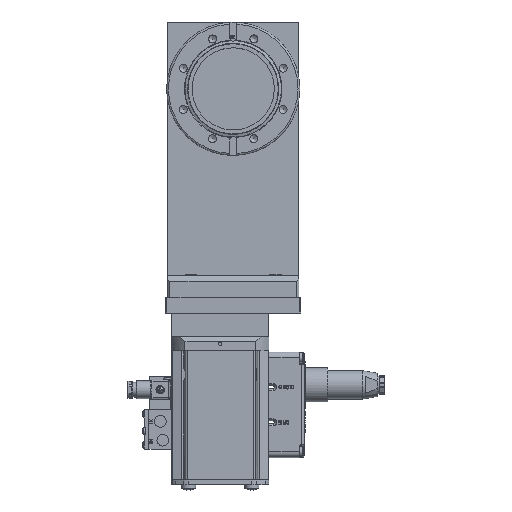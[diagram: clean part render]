
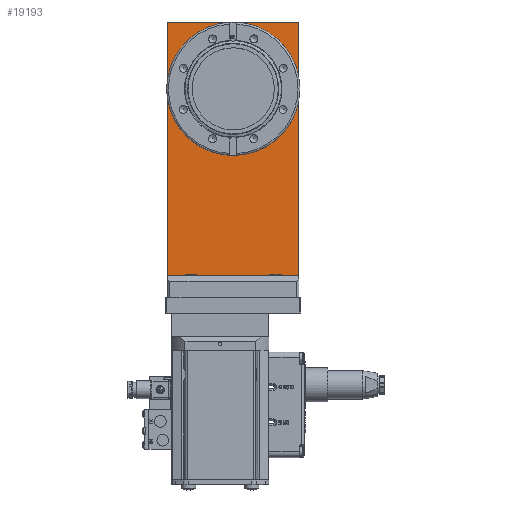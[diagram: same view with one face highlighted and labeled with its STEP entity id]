
A CAD part, top view. The second image highlights one B-rep face of the part: STEP entity #19193.
In plain terms, the highlighted planar face has unit normal (0, 0, 1).
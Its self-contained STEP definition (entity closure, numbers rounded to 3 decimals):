
#8476=LINE('',#77933,#12121);
#8481=LINE('',#77948,#12126);
#8483=LINE('',#77952,#12128);
#8486=LINE('',#77957,#12131);
#12121=VECTOR('',#60574,1.);
#12126=VECTOR('',#60581,1.);
#12128=VECTOR('',#60585,1.);
#12131=VECTOR('',#60590,1.);
#15149=PLANE('',#50465);
#19193=ADVANCED_FACE('',(#21025,#21026),#15149,.T.);
#21025=FACE_BOUND('',#24003,.T.);
#21026=FACE_BOUND('',#24004,.T.);
#24003=EDGE_LOOP('',(#34781,#34782,#34783,#34784));
#24004=EDGE_LOOP('',(#34785));
#34781=ORIENTED_EDGE('',*,*,#45454,.F.);
#34782=ORIENTED_EDGE('',*,*,#45460,.T.);
#34783=ORIENTED_EDGE('',*,*,#45465,.T.);
#34784=ORIENTED_EDGE('',*,*,#45462,.T.);
#34785=ORIENTED_EDGE('',*,*,#45467,.F.);
#39818=VERTEX_POINT('',#77932);
#39819=VERTEX_POINT('',#77934);
#39823=VERTEX_POINT('',#77947);
#39825=VERTEX_POINT('',#77953);
#39827=VERTEX_POINT('',#77962);
#45454=EDGE_CURVE('',#39818,#39819,#8476,.T.);
#45460=EDGE_CURVE('',#39818,#39823,#8481,.T.);
#45462=EDGE_CURVE('',#39825,#39819,#8483,.T.);
#45465=EDGE_CURVE('',#39823,#39825,#8486,.T.);
#45467=EDGE_CURVE('',#39827,#39827,#47132,.T.);
#47132=CIRCLE('',#50463,35.05);
#50463=AXIS2_PLACEMENT_3D('',#77961,#60595,#60596);
#50465=AXIS2_PLACEMENT_3D('',#77964,#60599,#60600);
#60574=DIRECTION('',(-1.,0.,0.));
#60581=DIRECTION('',(0.,1.,0.));
#60585=DIRECTION('',(0.,-1.,0.));
#60590=DIRECTION('',(-1.,0.,0.));
#60595=DIRECTION('',(0.,0.,1.));
#60596=DIRECTION('',(1.,0.,0.));
#60599=DIRECTION('',(0.,0.,1.));
#60600=DIRECTION('',(1.,0.,0.));
#77932=CARTESIAN_POINT('',(56.,-177.8,26.975));
#77933=CARTESIAN_POINT('',(0.,-177.8,26.975));
#77934=CARTESIAN_POINT('',(-56.,-177.8,26.975));
#77947=CARTESIAN_POINT('',(56.,57.05,26.975));
#77948=CARTESIAN_POINT('',(56.,-179.1,26.975));
#77952=CARTESIAN_POINT('',(-56.,57.05,26.975));
#77953=CARTESIAN_POINT('',(-56.,57.05,26.975));
#77957=CARTESIAN_POINT('',(56.,57.05,26.975));
#77961=CARTESIAN_POINT('',(0.,0.,26.975));
#77962=CARTESIAN_POINT('',(35.05,0.,26.975));
#77964=CARTESIAN_POINT('',(0.,0.,26.975));
